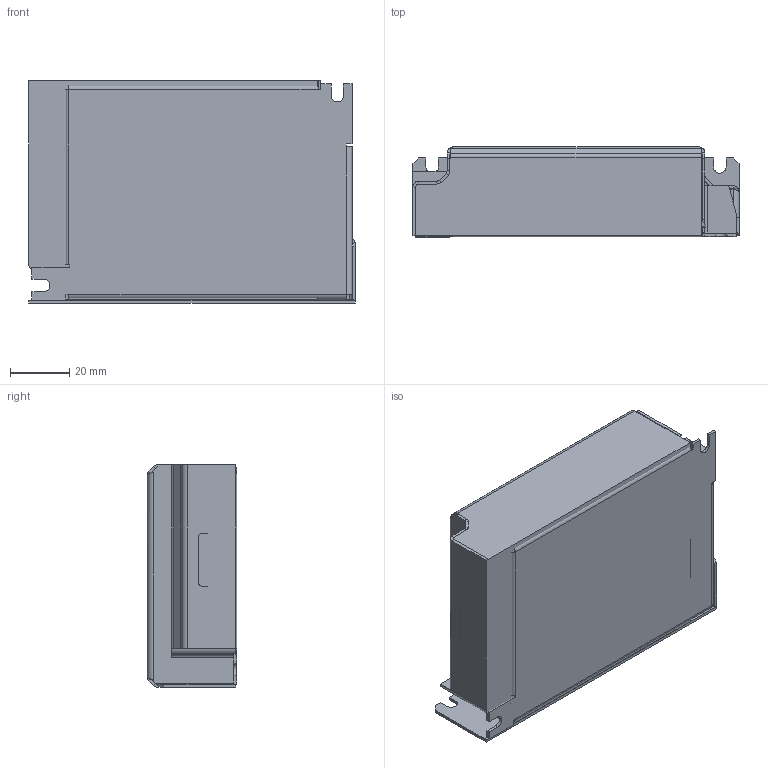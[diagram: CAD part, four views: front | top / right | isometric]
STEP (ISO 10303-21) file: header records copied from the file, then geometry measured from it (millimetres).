
FILE_DESCRIPTION (( 'STEP AP203' ), '1' );
FILE_NAME ('130_C3igs_110x75x30_9900004-com_neu.STEP', '2008-06-16T14:26:04', ( 'Kontec' ), ( '' ), 'SwSTEP 2.0', 'SolidWorks 2007', '' );
FILE_SCHEMA (( 'CONFIG_CONTROL_DESIGN' ));
Length unit declared in the file: millimetre
Products named in the file (1): 130_C3igs_110x75x30_9900004-com_neu
Bounding box: 110 x 30.24 x 75 mm (x, y, z)
Volume: 196608.8 mm3; surface area: 64427.9 mm2
Topology: 2 solids, 2 shells, 292 faces, 705 edges, 415 vertices
Faces by surface type: plane 218, cylinder 62, bspline 12
Entity records: 8727 total; most frequent: CARTESIAN_POINT 1944, ORIENTED_EDGE 1410, DIRECTION 1345, EDGE_CURVE 705, LINE 579, VECTOR 579, VERTEX_POINT 415, AXIS2_PLACEMENT_3D 383
